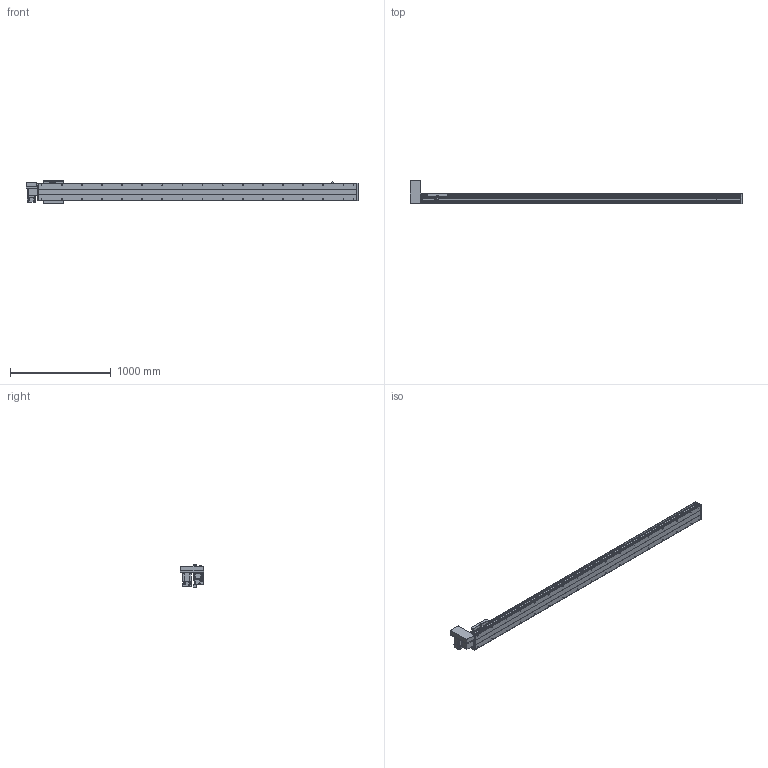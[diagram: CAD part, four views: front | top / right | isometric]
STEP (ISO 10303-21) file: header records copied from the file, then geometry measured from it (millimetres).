
FILE_DESCRIPTION(/* description */ ('STEP AP214'),/* implementation_level */ '2;1');
FILE_NAME(/* name */ 'PBS200-P40-S2800-RU-T75-C1-N(0)',/* time_stamp */ '2022-06-11T09:37:47+02:00',/* author */ ('License CC BY-ND 4.0'),/* organization */ ('CADENAS'),/* preprocessor_version */ 'ST-DEVELOPER v18.102',/* originating_system */ 'PARTsolutions',/* authorisation */ ' ');
FILE_SCHEMA (('AUTOMOTIVE_DESIGN {1 0 10303 214 3 1 1}'));
Length unit declared in the file: millimetre
Products named in the file (7): PBS200-P40-S2800-RU-T75-C1-N(0); PBS200_sensor; PBS200_plant; PBS200_sliser; T75-p1; PBS200T-RU_motors; PBS200-S2800()_body
Assembly tree (8 placements, depth 2):
  PBS200-P40-S2800-RU-T75-C1-N(0)
    PBS200_sensor  x3
    PBS200_plant
    PBS200_sliser
    T75-p1
    PBS200T-RU_motors
    PBS200-S2800()_body
Bounding box: 3300 x 231 x 221 mm (x, y, z)
Volume: 22477115.3 mm3; surface area: 3591786.5 mm2
Topology: 8 solids, 8 shells, 974 faces, 2464 edges, 1602 vertices
Faces by surface type: plane 592, cylinder 316, cone 66
Full cylindrical faces by diameter (mm): 2.459 x6, 3.242 x4, 4.5 x6, 4.917 x4, 5 x6, 6 x7, 6.6 x8, 6.647 x38, 8 x6, 10 x4, 12 x8, 38 x2, 40 x1, 70 x1
Entity records: 25661 total; most frequent: DIRECTION 4543, CARTESIAN_POINT 4354, ORIENTED_EDGE 4090, EDGE_CURVE 2045, AXIS2_PLACEMENT_3D 1615, VERTEX_POINT 1426, LINE 1313, VECTOR 1313
